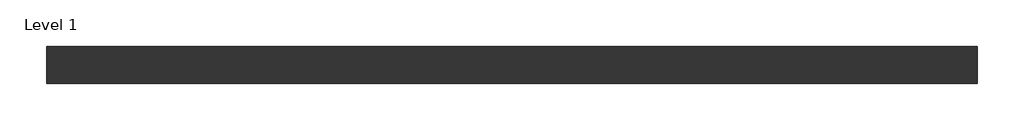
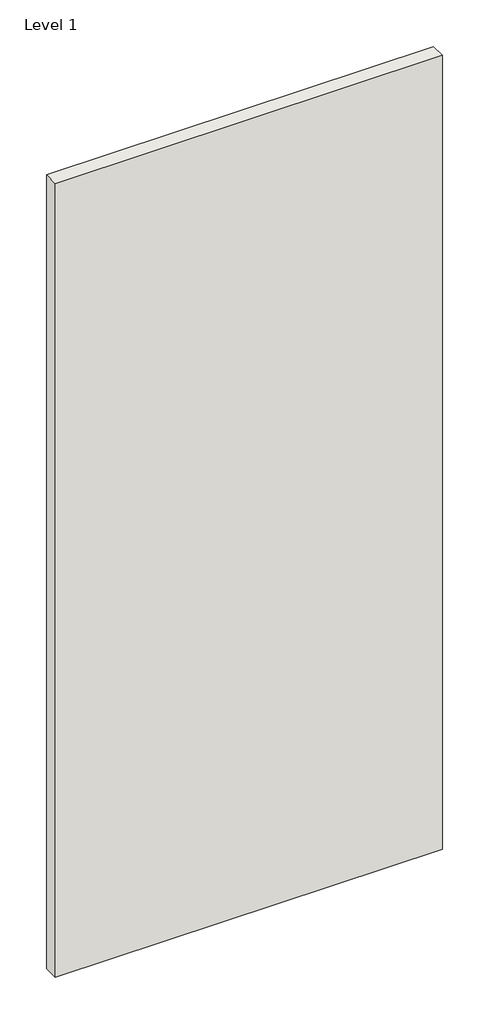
# One storey: 1 wall.
"""IFC4 building model written with IfcOpenShell, lengths in millimetres."""

from ifc_helpers import new_model, si_unit, origin, origin_with_axes, place, context, project, spatial, polyline, outline, extrude, element, save

model = new_model("IFC4")

# Units and contexts
model_context = context("Model", 3, world=origin())
ifc_project = project(units=[si_unit("LENGTHUNIT", "METRE", prefix="MILLI")], contexts=[model_context])

# Site, building, storey
site = spatial("IfcSite", under=ifc_project)
building = spatial("IfcBuilding", under=site)
storey = spatial("IfcBuildingStorey", under=building, Name="Level 1", Elevation=0.0)

# Wall
placement = place(None, origin())
element("IfcWall", 1, ObjectType="ARENA APTA 48 mm", at=placement, inside=storey, context=model_context, shape_type="SweptSolid", body=[
    extrude(outline(polyline([(-4644.8369443, -1954.0445576), (-5844.8369443, -1954.0445576), (-5844.8369443, -1906.0445576), (-4644.8369443, -1906.0445576), (-4644.8369443, -1954.0445576)])), origin_with_axes(), (0.0, 0.0, 1.0), 2600.0),
])

save(model, "model.ifc")
